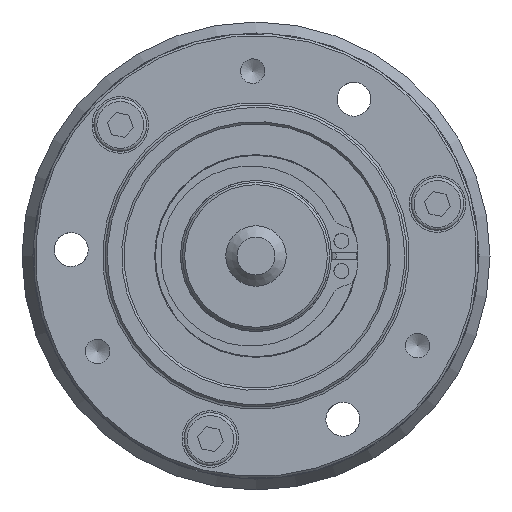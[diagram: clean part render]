
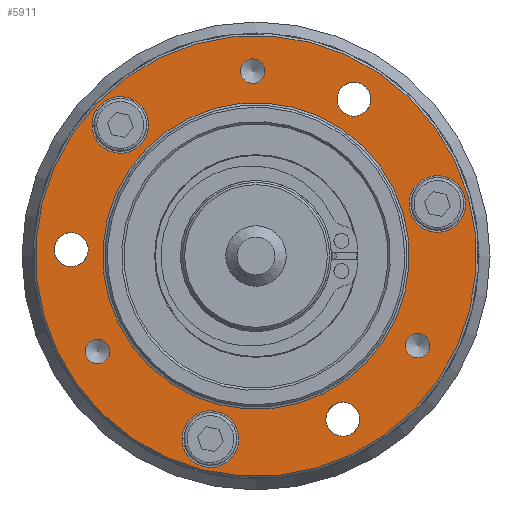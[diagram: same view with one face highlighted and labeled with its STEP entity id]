
A CAD part, left-side view. The second image highlights one B-rep face of the part: STEP entity #5911.
In plain terms, the highlighted planar face has unit normal (-1, 0, 0).
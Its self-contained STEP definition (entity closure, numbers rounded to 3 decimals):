
#1352=PLANE('',#6539);
#1546=FACE_BOUND('',#2340,.T.);
#1547=FACE_BOUND('',#2341,.T.);
#1548=FACE_BOUND('',#2342,.T.);
#1549=FACE_BOUND('',#2343,.T.);
#1550=FACE_BOUND('',#2344,.T.);
#1551=FACE_BOUND('',#2345,.T.);
#1552=FACE_BOUND('',#2346,.T.);
#1553=FACE_BOUND('',#2347,.T.);
#1554=FACE_BOUND('',#2348,.T.);
#1555=FACE_BOUND('',#2349,.T.);
#1843=FACE_OUTER_BOUND('',#2339,.T.);
#2339=EDGE_LOOP('',(#5021));
#2340=EDGE_LOOP('',(#5022));
#2341=EDGE_LOOP('',(#5023));
#2342=EDGE_LOOP('',(#5024));
#2343=EDGE_LOOP('',(#5025));
#2344=EDGE_LOOP('',(#5026));
#2345=EDGE_LOOP('',(#5027));
#2346=EDGE_LOOP('',(#5028));
#2347=EDGE_LOOP('',(#5029));
#2348=EDGE_LOOP('',(#5030));
#2349=EDGE_LOOP('',(#5031));
#2799=CIRCLE('',#6538,20.3);
#2800=CIRCLE('',#6540,29.2);
#2801=CIRCLE('',#6541,2.25);
#2802=CIRCLE('',#6542,2.25);
#2803=CIRCLE('',#6543,2.25);
#2804=CIRCLE('',#6544,1.621);
#2805=CIRCLE('',#6545,1.621);
#2806=CIRCLE('',#6546,1.621);
#2807=CIRCLE('',#6547,3.75);
#2808=CIRCLE('',#6548,3.75);
#2809=CIRCLE('',#6549,3.75);
#3196=VERTEX_POINT('',#9436);
#3197=VERTEX_POINT('',#9439);
#3198=VERTEX_POINT('',#9441);
#3199=VERTEX_POINT('',#9443);
#3200=VERTEX_POINT('',#9445);
#3201=VERTEX_POINT('',#9447);
#3202=VERTEX_POINT('',#9449);
#3203=VERTEX_POINT('',#9451);
#3204=VERTEX_POINT('',#9453);
#3205=VERTEX_POINT('',#9455);
#3206=VERTEX_POINT('',#9457);
#3839=EDGE_CURVE('',#3196,#3196,#2799,.T.);
#3840=EDGE_CURVE('',#3197,#3197,#2800,.T.);
#3841=EDGE_CURVE('',#3198,#3198,#2801,.T.);
#3842=EDGE_CURVE('',#3199,#3199,#2802,.T.);
#3843=EDGE_CURVE('',#3200,#3200,#2803,.T.);
#3844=EDGE_CURVE('',#3201,#3201,#2804,.T.);
#3845=EDGE_CURVE('',#3202,#3202,#2805,.T.);
#3846=EDGE_CURVE('',#3203,#3203,#2806,.T.);
#3847=EDGE_CURVE('',#3204,#3204,#2807,.T.);
#3848=EDGE_CURVE('',#3205,#3205,#2808,.T.);
#3849=EDGE_CURVE('',#3206,#3206,#2809,.T.);
#5021=ORIENTED_EDGE('',*,*,#3840,.F.);
#5022=ORIENTED_EDGE('',*,*,#3841,.T.);
#5023=ORIENTED_EDGE('',*,*,#3842,.T.);
#5024=ORIENTED_EDGE('',*,*,#3843,.T.);
#5025=ORIENTED_EDGE('',*,*,#3844,.T.);
#5026=ORIENTED_EDGE('',*,*,#3845,.T.);
#5027=ORIENTED_EDGE('',*,*,#3846,.T.);
#5028=ORIENTED_EDGE('',*,*,#3847,.T.);
#5029=ORIENTED_EDGE('',*,*,#3848,.T.);
#5030=ORIENTED_EDGE('',*,*,#3849,.T.);
#5031=ORIENTED_EDGE('',*,*,#3839,.F.);
#5911=ADVANCED_FACE('',(#1843,#1546,#1547,#1548,#1549,#1550,#1551,#1552,
#1553,#1554,#1555),#1352,.T.);
#6538=AXIS2_PLACEMENT_3D('',#9437,#7833,#7834);
#6539=AXIS2_PLACEMENT_3D('',#9438,#7835,#7836);
#6540=AXIS2_PLACEMENT_3D('',#9440,#7837,#7838);
#6541=AXIS2_PLACEMENT_3D('',#9442,#7839,#7840);
#6542=AXIS2_PLACEMENT_3D('',#9444,#7841,#7842);
#6543=AXIS2_PLACEMENT_3D('',#9446,#7843,#7844);
#6544=AXIS2_PLACEMENT_3D('',#9448,#7845,#7846);
#6545=AXIS2_PLACEMENT_3D('',#9450,#7847,#7848);
#6546=AXIS2_PLACEMENT_3D('',#9452,#7849,#7850);
#6547=AXIS2_PLACEMENT_3D('',#9454,#7851,#7852);
#6548=AXIS2_PLACEMENT_3D('',#9456,#7853,#7854);
#6549=AXIS2_PLACEMENT_3D('',#9458,#7855,#7856);
#7833=DIRECTION('center_axis',(-1.,0.,0.));
#7834=DIRECTION('ref_axis',(0.,-0.961,0.276));
#7835=DIRECTION('center_axis',(-1.,0.,0.));
#7836=DIRECTION('ref_axis',(0.,0.276,0.961));
#7837=DIRECTION('center_axis',(1.,0.,0.));
#7838=DIRECTION('ref_axis',(0.,-0.961,0.276));
#7839=DIRECTION('center_axis',(1.,0.,0.));
#7840=DIRECTION('ref_axis',(0.,0.276,0.961));
#7841=DIRECTION('center_axis',(1.,0.,0.));
#7842=DIRECTION('ref_axis',(0.,0.276,0.961));
#7843=DIRECTION('center_axis',(1.,0.,0.));
#7844=DIRECTION('ref_axis',(0.,0.276,0.961));
#7845=DIRECTION('center_axis',(1.,0.,0.));
#7846=DIRECTION('ref_axis',(0.,0.276,0.961));
#7847=DIRECTION('center_axis',(1.,0.,0.));
#7848=DIRECTION('ref_axis',(0.,0.276,0.961));
#7849=DIRECTION('center_axis',(1.,0.,0.));
#7850=DIRECTION('ref_axis',(0.,0.276,0.961));
#7851=DIRECTION('center_axis',(1.,0.,0.));
#7852=DIRECTION('ref_axis',(0.,0.276,0.961));
#7853=DIRECTION('center_axis',(1.,0.,0.));
#7854=DIRECTION('ref_axis',(0.,0.276,0.961));
#7855=DIRECTION('center_axis',(1.,0.,0.));
#7856=DIRECTION('ref_axis',(0.,0.276,0.961));
#9436=CARTESIAN_POINT('',(3.,19.514,-5.595));
#9437=CARTESIAN_POINT('Origin',(3.,0.,0.));
#9438=CARTESIAN_POINT('Origin',(3.,23.791,-6.822));
#9439=CARTESIAN_POINT('',(3.,28.069,-8.049));
#9440=CARTESIAN_POINT('Origin',(3.,0.,0.));
#9441=CARTESIAN_POINT('',(3.,-12.122,-23.795));
#9442=CARTESIAN_POINT('Origin',(3.,-11.502,-21.632));
#9443=CARTESIAN_POINT('',(3.,-13.603,18.614));
#9444=CARTESIAN_POINT('Origin',(3.,-12.983,20.777));
#9445=CARTESIAN_POINT('',(3.,23.865,-1.308));
#9446=CARTESIAN_POINT('Origin',(3.,24.485,0.855));
#9447=CARTESIAN_POINT('',(3.,-0.019,22.938));
#9448=CARTESIAN_POINT('Origin',(3.,0.428,24.496));
#9449=CARTESIAN_POINT('',(3.,20.554,-14.177));
#9450=CARTESIAN_POINT('Origin',(3.,21.001,-12.618));
#9451=CARTESIAN_POINT('',(3.,-21.875,-13.436));
#9452=CARTESIAN_POINT('Origin',(3.,-21.428,-11.878));
#9453=CARTESIAN_POINT('',(3.,16.95,13.762));
#9454=CARTESIAN_POINT('Origin',(3.,17.983,17.366));
#9455=CARTESIAN_POINT('',(3.,5.014,-27.862));
#9456=CARTESIAN_POINT('Origin',(3.,6.048,-24.257));
#9457=CARTESIAN_POINT('',(3.,-25.065,3.286));
#9458=CARTESIAN_POINT('Origin',(3.,-24.032,6.891));
